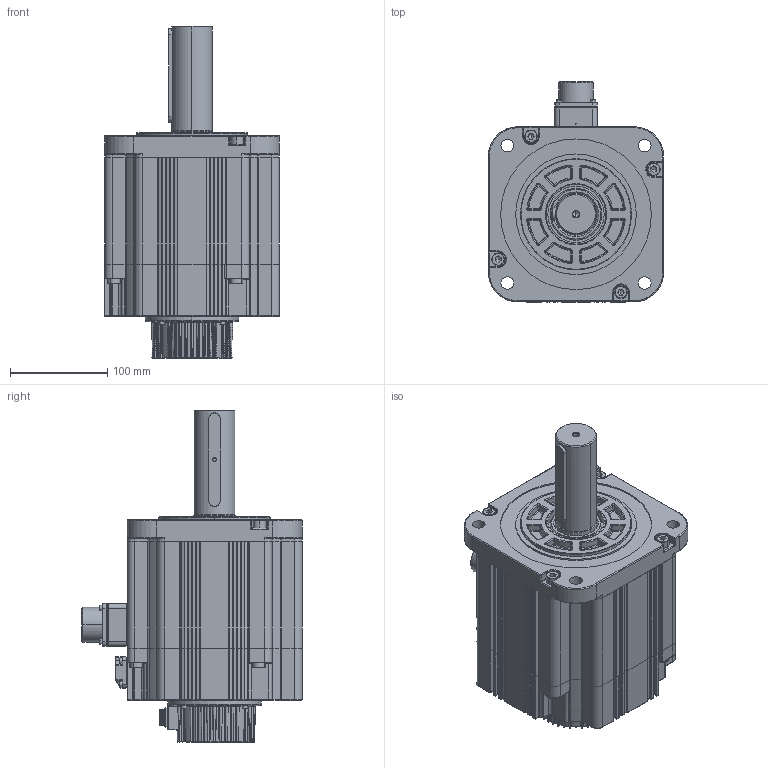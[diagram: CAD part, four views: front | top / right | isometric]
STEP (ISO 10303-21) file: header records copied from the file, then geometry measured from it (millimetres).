
FILE_DESCRIPTION (( 'STEP AP214' ), '1' );
FILE_NAME ('V7E-M18D-2R815-D2BH.STEP', '2021-08-10T05:29:43', ( '' ), ( '' ), 'SwSTEP 2.0', 'SolidWorks 2014', '' );
FILE_SCHEMA (( 'AUTOMOTIVE_DESIGN' ));
Length unit declared in the file: millimetre
Products named in the file (20): 180#陔隅赽201019; 埴芛囀鞠褒 ISO 4762 M3 x 30 --- 18N; SC180儂褲1009; 埴芛囀鞠褒 ISO 4762 M3 x 8 --- 8N; 埴芛囀鞠褒 ISO 4762 M6 x 20 --- 20N; V7E-M18D-2R815-D2BH; 坋趼攫芛蹟佪 M2X8-8  H type-N; SCSC瑤諾脣芛 16M-9H; SC蚐猾 D00B999YF8-TC 44-62-10; 埴芛囀鞠褒 ISO 4762 M3 x 10 --- 10N; SC180#綴傷裔蹟隊熬傻-201020; 綴傷裔-111; 价陬揤盄裔200912; SC晤鎢ん欶200908_10郋; SC瑤諾脣芛 24-11-9pin; 180粣-47沺郋; SC180ヶ傷裔1009; 埴芛囀鞠褒 ISO 4762 M8 x 30 --- 30N; SC180瑤脣釱1015; す瑩^180#陔萇儂-拸价陬 201021
Assembly tree (40 placements, depth 3):
  V7E-M18D-2R815-D2BH
    180#陔隅赽201019
      SC180儂褲1009
      SC180ヶ傷裔1009
      SC180瑤脣釱1015
    SC晤鎢ん欶200908_10郋
    SCSC瑤諾脣芛 16M-9H
    SC蚐猾 D00B999YF8-TC 44-62-10
    坋趼攫芛蹟佪 M2X8-8  H type-N  x4
    埴芛囀鞠褒 ISO 4762 M3 x 10 --- 10N  x4
    埴芛囀鞠褒 ISO 4762 M8 x 30 --- 30N  x8
    埴芛囀鞠褒 ISO 4762 M3 x 30 --- 18N  x4
    180粣-47沺郋
    す瑩^180#陔萇儂-拸价陬 201021
    SC瑤諾脣芛 24-11-9pin
    綴傷裔-111
      SC180#綴傷裔蹟隊熬傻-201020
    价陬揤盄裔200912
    埴芛囀鞠褒 ISO 4762 M3 x 8 --- 8N  x4
    埴芛囀鞠褒 ISO 4762 M6 x 20 --- 20N  x3
Bounding box: 180 x 226.3 x 341.5 mm (x, y, z)
Volume: 2078386.7 mm3; surface area: 542648.5 mm2
Topology: 39 solids, 39 shells, 3697 faces, 8906 edges, 5137 vertices
Faces by surface type: cylinder 1257, bspline 1051, plane 1002, cone 291, torus 92, sphere 4
Entity records: 155977 total; most frequent: CARTESIAN_POINT 56344, ORIENTED_EDGE 14810, DIRECTION 13046, EDGE_CURVE 7405, AXIS2_PLACEMENT_3D 5161, VERTEX_POINT 4413, EDGE_LOOP 3364, ADVANCED_FACE 3139
